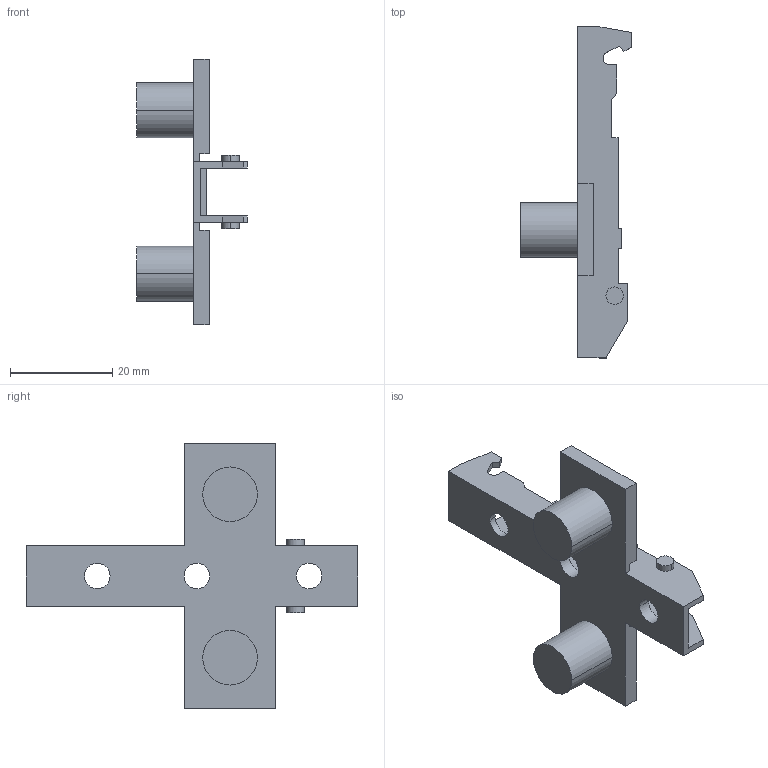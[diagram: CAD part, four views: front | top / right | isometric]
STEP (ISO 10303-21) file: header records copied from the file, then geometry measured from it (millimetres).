
FILE_DESCRIPTION (( 'STEP AP214' ), '1' );
FILE_NAME ('Eco Kreuzmontageplatte LR37_32_Dübel 10mm_H00.step', '2010-11-18T10:06:53', ( 'grass' ), ( '' ), 'SwSTEP 2.0', 'SolidWorks 2010', '' );
FILE_SCHEMA (( 'AUTOMOTIVE_DESIGN' ));
Length unit declared in the file: millimetre
Products named in the file (1): Eco Kreuzmontageplatte LR37_32_Dübel 10mm_H00
Bounding box: 21.7 x 65 x 52 mm (x, y, z)
Volume: 6119.3 mm3; surface area: 6121.6 mm2
Topology: 1 solids, 1 shells, 102 faces, 272 edges, 178 vertices
Faces by surface type: plane 74, cylinder 22, cone 6
Entity records: 3192 total; most frequent: CARTESIAN_POINT 553, ORIENTED_EDGE 544, DIRECTION 528, EDGE_CURVE 272, VECTOR 222, LINE 222, VERTEX_POINT 178, AXIS2_PLACEMENT_3D 153
